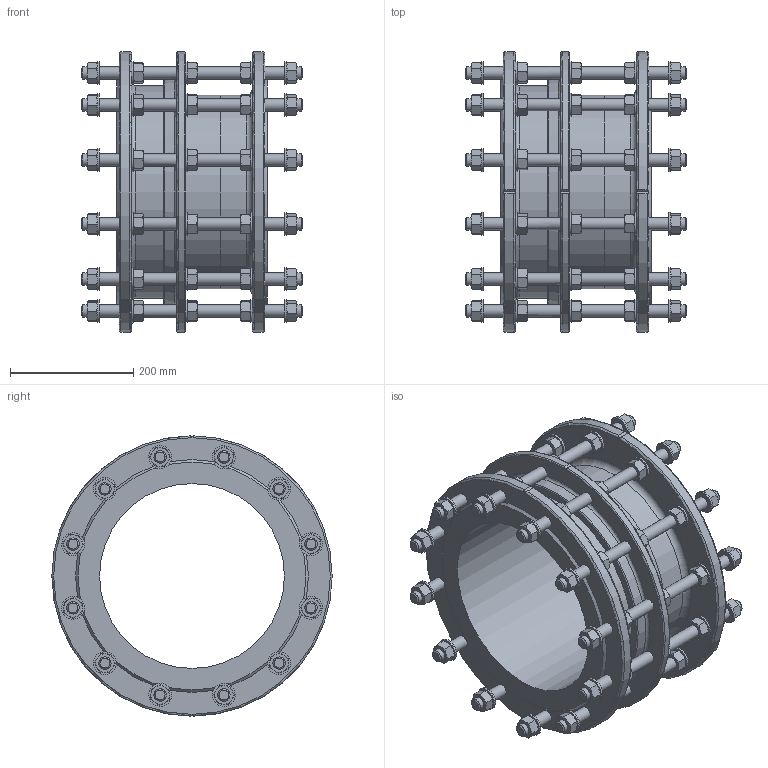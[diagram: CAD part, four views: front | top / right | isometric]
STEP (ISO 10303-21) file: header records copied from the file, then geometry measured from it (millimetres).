
FILE_DESCRIPTION (( 'STEP AP203' ), '1' );
FILE_NAME ('O_265_911_DN300_0XXXXX01_L=245_REV01.step', '2024-12-12T07:59:19', ( '' ), ( '' ), 'SwSTEP 2.0', 'SolidWorks 2022', '' );
FILE_SCHEMA (( 'CONFIG_CONTROL_DESIGN' ));
Length unit declared in the file: millimetre
Products named in the file (1): O_265_911_DN300_0XXXXX01_L=245_REV01
Bounding box: 360 x 455 x 454.96 mm (x, y, z)
Volume: 9937828.5 mm3; surface area: 1271337.1 mm2
Topology: 1 solids, 1 shells, 1498 faces, 3328 edges, 1999 vertices
Faces by surface type: cone 748, plane 592, cylinder 144, torus 14
Full cylindrical faces by diameter (mm): 20 x72, 37 x60, 300 x1, 315 x2, 345 x1
Entity records: 45912 total; most frequent: CARTESIAN_POINT 16304, ORIENTED_EDGE 6088, DIRECTION 5633, EDGE_CURVE 3044, AXIS2_PLACEMENT_3D 2566, VERTEX_POINT 1885, EDGE_LOOP 1885, FACE_OUTER_BOUND 1640
